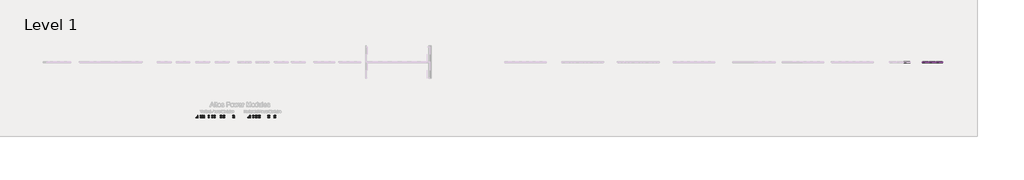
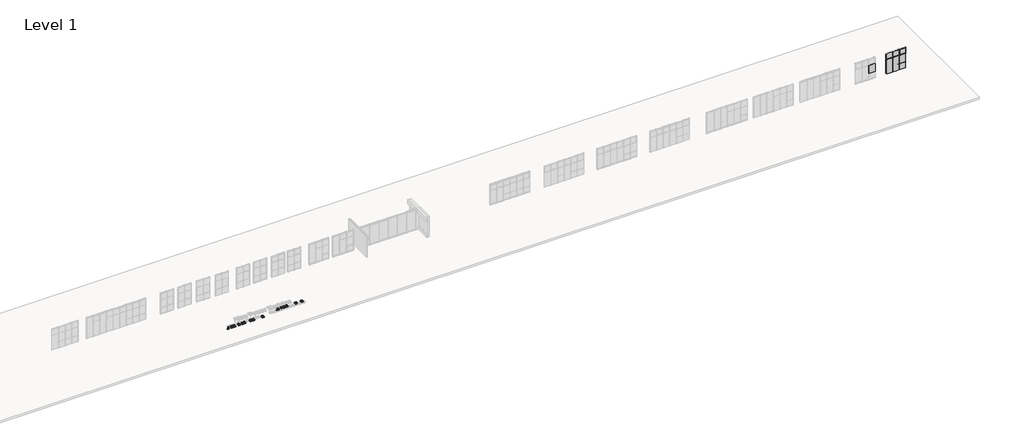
# One storey, part 17 of 22: 54 proxies.
"""IFC4 building model written with IfcOpenShell, lengths in millimetres."""

from ifc_helpers import new_model, si_unit, origin, place, context, project, spatial, transform, mapped, element, save
from components import specialty_equipment_a7725fb8, electrical_fixtures_e288b9bc, electrical_fixtures_7935cbd9, electrical_fixtures_94c24c1b, electrical_fixtures_9f06c1d8, electrical_fixtures_cf150507, electrical_fixtures_b57f04e2, electrical_fixtures_b943349e, electrical_fixtures_7ee819dc, electrical_fixtures_2c1a8ef8, electrical_fixtures_6ca6a594, electrical_fixtures_9293c94c, electrical_fixtures_81150f9e, electrical_fixtures_d6838e8a, electrical_fixtures_fca81bba, electrical_fixtures_5d6b1b63, electrical_fixtures_cbb62ec8, specialty_equipment_5beb618c, frame_teknion_horizontal_rail_5872ae1a, frame_teknion_horizontal_rail_149fd3e6, pd_horizontal_module_communications_3bd114d5, pd_horizontal_module_double_one_15_amp_standard_91662da0, pd_horizontal_module_double_one_20_amp_standard_4a8edad1, pd_horizontal_module_double_two_15_amp_standard_6849602c, pd_horizontal_module_double_two_20_amp_standard_3f62b5b6, pd_horizontal_module_single_15_amp_standard_5c934545, pd_horizontal_module_single_20_amp_standard_525e48b1, pd_vertical_module_communications_bda5cb75, pd_vertical_module_double_one_15_amp_standard_e69900ea, pd_vertical_module_double_one_20_amp_standard_6d0cff1c, pd_vertical_module_double_two_15_amp_standard_3b64569a, pd_vertical_module_double_two_20_amp_standard_31f9a75b, pd_vertical_module_quad_15_amp_standard_all_outlets_835c5be2, pd_vertical_module_quad_20_amp_standard_all_outlets_cea8ea7a, pd_vertical_module_single_15_amp_standard_b1616907, pd_vertical_module_single_20_amp_standard_ca99faa8, pd_vertical_module_triple_15_amp_standard_a40d858c, pd_vertical_module_triple_20_amp_standard_58f04986, panel_fascia_teknion_clerestory_base_fascia_level_i_988903cc, panel_fascia_teknion_clerestory_base_fascia_level_ii_c53b4d47, panel_fascia_teknion_clerestory_base_fascia_level_ii_690aed16, panel_fascia_teknion_clerestory_base_fascia_level_ii_2c55b825, panel_fascia_teknion_clerestory_base_fascia_segmented_136e7ca1, panel_fascia_teknion_clerestory_base_fascia_segmented_5bbcc382, panel_fascia_teknion_clerestory_base_fascia_segmented_676c6a3b, panel_fascia_teknion_clerestory_base_fascia_working_wall_dc28b561, panel_fascia_teknion_clerestory_base_fascia_working_wall_c515cb01, panel_fascia_teknion_clerestory_base_fascia_working_wall_e7e99f1c

model = new_model("IFC4")

# Units and contexts
model_context = context("Model", 3, world=origin())
ifc_project = project(units=[si_unit("LENGTHUNIT", "METRE", prefix="MILLI")], contexts=[model_context])

# Site, building, storey
site = spatial("IfcSite", under=ifc_project)
building = spatial("IfcBuilding", under=site)
storey = spatial("IfcBuildingStorey", under=building, Name="Level 1", Elevation=0.0)

# Proxies
placement = place(None, origin())
specialty_equipment_shape = specialty_equipment_a7725fb8(model_context)
element("IfcBuildingElementProxy", 1, Name="Panel-Clerestory-Teknion-Optos-Altos_Monolithic_Fascias : FYCG", ObjectType="Panel-Clerestory-Teknion-Optos-Altos_Monolithic_Fascias : FYCG", at=placement, inside=storey, context=model_context, shape_type="MappedRepresentation", body=[
    mapped(specialty_equipment_shape, transform((78556.512457, 1812.3522105, 2136.775), x_axis=(-1.0, 0.0, 0.0), y_axis=(0.0, -1.0, 0.0), z_axis=(0.0, 0.0, 1.0))),
])
element("IfcBuildingElementProxy", 2, Name="Panel-Clerestory-Teknion-Optos-Altos_Monolithic_Fascias : FYCG", ObjectType="Panel-Clerestory-Teknion-Optos-Altos_Monolithic_Fascias : FYCG", at=placement, inside=storey, context=model_context, shape_type="MappedRepresentation", body=[
    mapped(specialty_equipment_shape, transform((76741.7023007, 1812.3522105, 2136.775), x_axis=(-1.0, 0.0, 0.0), y_axis=(0.0, -1.0, 0.0), z_axis=(0.0, 0.0, 1.0))),
])
electrical_fixtures_shape = electrical_fixtures_e288b9bc(model_context)
element("IfcBuildingElementProxy", 3, Name="Electrical-Teknion-EPDMD_Vertical_Power_Data_Double-R2019 : PD Vertical Module - Double 15 Amp USB (A+C)", ObjectType="Electrical-Teknion-EPDMD_Vertical_Power_Data_Double-R2019 : PD Vertical Module - Double 15 Amp USB (A+C)", at=placement, inside=storey, context=model_context, shape_type="MappedRepresentation", body=[
    mapped(electrical_fixtures_shape, transform((-17578.0460124, -5496.5835012, 0.0), x_axis=(1.0, 0.0, 0.0), y_axis=(0.0, 1.0, 0.0), z_axis=(0.0, 0.0, 1.0))),
])
electrical_fixtures_2_shape = electrical_fixtures_7935cbd9(model_context)
element("IfcBuildingElementProxy", 4, Name="Electrical-Teknion-EPDMD_Vertical_Power_Data_Double-R2019 : PD Vertical Module - Double 20 Amp USB (A+C)", ObjectType="Electrical-Teknion-EPDMD_Vertical_Power_Data_Double-R2019 : PD Vertical Module - Double 20 Amp USB (A+C)", at=placement, inside=storey, context=model_context, shape_type="MappedRepresentation", body=[
    mapped(electrical_fixtures_2_shape, transform((-17578.0460124, -5272.1720809, 0.0), x_axis=(1.0, 0.0, 0.0), y_axis=(0.0, 1.0, 0.0), z_axis=(0.0, 0.0, 1.0))),
])
electrical_fixtures_3_shape = electrical_fixtures_94c24c1b(model_context)
element("IfcBuildingElementProxy", 5, Name="Electrical-Teknion-EPDMD_Vertical_Power_Data_Double-R2019 : PD Vertical Module - Double 15 Amp USB (A+C) & 15 Amp Standard", ObjectType="Electrical-Teknion-EPDMD_Vertical_Power_Data_Double-R2019 : PD Vertical Module - Double 15 Amp USB (A+C) & 15 Amp Standard", at=placement, inside=storey, context=model_context, shape_type="MappedRepresentation", body=[
    mapped(electrical_fixtures_3_shape, transform((-17134.5220958, -5496.5835012, 0.0), x_axis=(1.0, 0.0, 0.0), y_axis=(0.0, 1.0, 0.0), z_axis=(0.0, 0.0, 1.0))),
])
electrical_fixtures_4_shape = electrical_fixtures_9f06c1d8(model_context)
element("IfcBuildingElementProxy", 6, Name="Electrical-Teknion-EPDMD_Vertical_Power_Data_Double-R2019 : PD Vertical Module - Double 20 Amp USB (A+C) & 20 Amp Standard", ObjectType="Electrical-Teknion-EPDMD_Vertical_Power_Data_Double-R2019 : PD Vertical Module - Double 20 Amp USB (A+C) & 20 Amp Standard", at=placement, inside=storey, context=model_context, shape_type="MappedRepresentation", body=[
    mapped(electrical_fixtures_4_shape, transform((-17134.5220958, -5272.1720809, 0.0), x_axis=(1.0, 0.0, 0.0), y_axis=(0.0, 1.0, 0.0), z_axis=(0.0, 0.0, 1.0))),
])
electrical_fixtures_5_shape = electrical_fixtures_cf150507(model_context)
element("IfcBuildingElementProxy", 7, Name="Electrical-Teknion-EPDMT_Vertical_Power_Data_Triple-R2019 : PD Vertical Module - Triple 15 Amp USB (A+C) & 15 Amp Standard", ObjectType="Electrical-Teknion-EPDMT_Vertical_Power_Data_Triple-R2019 : PD Vertical Module - Triple 15 Amp USB (A+C) & 15 Amp Standard", at=placement, inside=storey, context=model_context, shape_type="MappedRepresentation", body=[
    mapped(electrical_fixtures_5_shape, transform((-16003.1705225, -5496.5835012, 0.0), x_axis=(1.0, 0.0, 0.0), y_axis=(0.0, 1.0, 0.0), z_axis=(0.0, 0.0, 1.0))),
])
electrical_fixtures_6_shape = electrical_fixtures_b57f04e2(model_context)
element("IfcBuildingElementProxy", 8, Name="Electrical-Teknion-EPDMT_Vertical_Power_Data_Triple-R2019 : PD Vertical Module - Triple 20 Amp USB (A+C) & 20 Amp Standard", ObjectType="Electrical-Teknion-EPDMT_Vertical_Power_Data_Triple-R2019 : PD Vertical Module - Triple 20 Amp USB (A+C) & 20 Amp Standard", at=placement, inside=storey, context=model_context, shape_type="MappedRepresentation", body=[
    mapped(electrical_fixtures_6_shape, transform((-16003.1705225, -5272.1720809, 0.0), x_axis=(1.0, 0.0, 0.0), y_axis=(0.0, 1.0, 0.0), z_axis=(0.0, 0.0, 1.0))),
])
electrical_fixtures_7_shape = electrical_fixtures_b943349e(model_context)
element("IfcBuildingElementProxy", 9, Name="Electrical-Teknion-EPDMQ_Vertical_Power_Data_Quad-R2019 : PD Vertical Module - Quad 15 Amp USB (A+C) & 15 Amp Standard", ObjectType="Electrical-Teknion-EPDMQ_Vertical_Power_Data_Quad-R2019 : PD Vertical Module - Quad 15 Amp USB (A+C) & 15 Amp Standard", at=placement, inside=storey, context=model_context, shape_type="MappedRepresentation", body=[
    mapped(electrical_fixtures_7_shape, transform((-14351.3987218, -5496.5835012, 0.0), x_axis=(1.0, 0.0, 0.0), y_axis=(0.0, 1.0, 0.0), z_axis=(0.0, 0.0, 1.0))),
])
electrical_fixtures_8_shape = electrical_fixtures_7ee819dc(model_context)
element("IfcBuildingElementProxy", 10, Name="Electrical-Teknion-EPDMQ_Vertical_Power_Data_Quad-R2019 : PD Vertical Module - Quad 20 Amp USB (A+C) & 20 Amp Standard", ObjectType="Electrical-Teknion-EPDMQ_Vertical_Power_Data_Quad-R2019 : PD Vertical Module - Quad 20 Amp USB (A+C) & 20 Amp Standard", at=placement, inside=storey, context=model_context, shape_type="MappedRepresentation", body=[
    mapped(electrical_fixtures_8_shape, transform((-14351.3987218, -5272.1720809, 0.0), x_axis=(1.0, 0.0, 0.0), y_axis=(0.0, 1.0, 0.0), z_axis=(0.0, 0.0, 1.0))),
])
electrical_fixtures_9_shape = electrical_fixtures_2c1a8ef8(model_context)
element("IfcBuildingElementProxy", 11, Name="Electrical-Teknion-EPDHS_Horizontal_Power_Data_Single-R2019 : PD Horizontal Module - Single 15 Amp USB (A+C)", ObjectType="Electrical-Teknion-EPDHS_Horizontal_Power_Data_Single-R2019 : PD Horizontal Module - Single 15 Amp USB (A+C)", at=placement, inside=storey, context=model_context, shape_type="MappedRepresentation", body=[
    mapped(electrical_fixtures_9_shape, transform((-11709.2014406, -5496.5835012, 0.0), x_axis=(1.0, 0.0, 0.0), y_axis=(0.0, 1.0, 0.0), z_axis=(0.0, 0.0, 1.0))),
])
electrical_fixtures_10_shape = electrical_fixtures_6ca6a594(model_context)
element("IfcBuildingElementProxy", 12, Name="Electrical-Teknion-EPDHS_Horizontal_Power_Data_Single-R2019 : PD Horizontal Module - Single 20 Amp USB (A+C)", ObjectType="Electrical-Teknion-EPDHS_Horizontal_Power_Data_Single-R2019 : PD Horizontal Module - Single 20 Amp USB (A+C)", at=placement, inside=storey, context=model_context, shape_type="MappedRepresentation", body=[
    mapped(electrical_fixtures_10_shape, transform((-11709.2014406, -5272.1720809, 0.0), x_axis=(1.0, 0.0, 0.0), y_axis=(0.0, 1.0, 0.0), z_axis=(0.0, 0.0, 1.0))),
])
electrical_fixtures_11_shape = electrical_fixtures_9293c94c(model_context)
element("IfcBuildingElementProxy", 13, Name="Electrical-Teknion-EPDHD_Horizontal_Power_Data_Double-R2019 : PD Horizontal Module - Double 15 Amp USB (A+C)", ObjectType="Electrical-Teknion-EPDHD_Horizontal_Power_Data_Double-R2019 : PD Horizontal Module - Double 15 Amp USB (A+C)", at=placement, inside=storey, context=model_context, shape_type="MappedRepresentation", body=[
    mapped(electrical_fixtures_11_shape, transform((-9748.4131037, -5496.5835012, 0.0), x_axis=(1.0, 0.0, 0.0), y_axis=(0.0, 1.0, 0.0), z_axis=(0.0, 0.0, 1.0))),
])
electrical_fixtures_12_shape = electrical_fixtures_81150f9e(model_context)
element("IfcBuildingElementProxy", 14, Name="Electrical-Teknion-EPDHD_Horizontal_Power_Data_Double-R2019 : PD Horizontal Module - Double 20 Amp USB (A+C)", ObjectType="Electrical-Teknion-EPDHD_Horizontal_Power_Data_Double-R2019 : PD Horizontal Module - Double 20 Amp USB (A+C)", at=placement, inside=storey, context=model_context, shape_type="MappedRepresentation", body=[
    mapped(electrical_fixtures_12_shape, transform((-9748.4131037, -5272.1720809, 0.0), x_axis=(1.0, 0.0, 0.0), y_axis=(0.0, 1.0, 0.0), z_axis=(0.0, 0.0, 1.0))),
])
electrical_fixtures_13_shape = electrical_fixtures_d6838e8a(model_context)
element("IfcBuildingElementProxy", 15, Name="Electrical-Teknion-EPDHD_Horizontal_Power_Data_Double-R2019 : PD Horizontal Module - Double 15 Amp USB (A+C) & 15 Amp Standard", ObjectType="Electrical-Teknion-EPDHD_Horizontal_Power_Data_Double-R2019 : PD Horizontal Module - Double 15 Amp USB (A+C) & 15 Amp Standard", at=placement, inside=storey, context=model_context, shape_type="MappedRepresentation", body=[
    mapped(electrical_fixtures_13_shape, transform((-8936.6472871, -5496.5835012, 0.0), x_axis=(1.0, 0.0, 0.0), y_axis=(0.0, 1.0, 0.0), z_axis=(0.0, 0.0, 1.0))),
])
electrical_fixtures_14_shape = electrical_fixtures_fca81bba(model_context)
element("IfcBuildingElementProxy", 16, Name="Electrical-Teknion-EPDHD_Horizontal_Power_Data_Double-R2019 : PD Horizontal Module - Double 20 Amp USB (A+C) & 20 Amp Standard", ObjectType="Electrical-Teknion-EPDHD_Horizontal_Power_Data_Double-R2019 : PD Horizontal Module - Double 20 Amp USB (A+C) & 20 Amp Standard", at=placement, inside=storey, context=model_context, shape_type="MappedRepresentation", body=[
    mapped(electrical_fixtures_14_shape, transform((-8936.6472871, -5272.1720809, 0.0), x_axis=(1.0, 0.0, 0.0), y_axis=(0.0, 1.0, 0.0), z_axis=(0.0, 0.0, 1.0))),
])
electrical_fixtures_15_shape = electrical_fixtures_5d6b1b63(model_context)
element("IfcBuildingElementProxy", 17, Name="Electrical-Teknion-EPDMS_Vertical_Power_Data_Single-R2019 : PD Vertical Module - Single 15 Amp USB (A+C)", ObjectType="Electrical-Teknion-EPDMS_Vertical_Power_Data_Single-R2019 : PD Vertical Module - Single 15 Amp USB (A+C)", at=placement, inside=storey, context=model_context, shape_type="MappedRepresentation", body=[
    mapped(electrical_fixtures_15_shape, transform((-18611.1746708, -5496.5835012, 0.0), x_axis=(1.0, 0.0, 0.0), y_axis=(0.0, 1.0, 0.0), z_axis=(0.0, 0.0, 1.0))),
])
electrical_fixtures_16_shape = electrical_fixtures_cbb62ec8(model_context)
element("IfcBuildingElementProxy", 18, Name="Electrical-Teknion-EPDMS_Vertical_Power_Data_Single-R2019 : PD Vertical Module - Single 20 Amp USB (A+C)", ObjectType="Electrical-Teknion-EPDMS_Vertical_Power_Data_Single-R2019 : PD Vertical Module - Single 20 Amp USB (A+C)", at=placement, inside=storey, context=model_context, shape_type="MappedRepresentation", body=[
    mapped(electrical_fixtures_16_shape, transform((-18611.1746708, -5272.1720809, 0.0), x_axis=(1.0, 0.0, 0.0), y_axis=(0.0, 1.0, 0.0), z_axis=(0.0, 0.0, 1.0))),
])
specialty_equipment_2_shape = specialty_equipment_5beb618c(model_context)
element("IfcBuildingElementProxy", 19, Name="Panel-Clerestory-Teknion-Optos-Altos_Monolithic_Fascias : FYCG", ObjectType="Panel-Clerestory-Teknion-Optos-Altos_Monolithic_Fascias : FYCG", at=placement, inside=storey, context=model_context, shape_type="MappedRepresentation", body=[
    mapped(specialty_equipment_2_shape, transform((77649.1073788, 1812.3522105, 2136.775), x_axis=(-1.0, 0.0, 0.0), y_axis=(0.0, -1.0, 0.0), z_axis=(0.0, 0.0, 1.0))),
])
frame_teknion_horizontal_rail_shape = frame_teknion_horizontal_rail_5872ae1a(model_context)
element("IfcBuildingElementProxy", 20, Name="Frame-Teknion-Horizontal_Rail : FPKK", ObjectType="Frame-Teknion-Horizontal_Rail : FPKK", at=placement, inside=storey, context=model_context, shape_type="MappedRepresentation", body=[
    mapped(frame_teknion_horizontal_rail_shape, transform((78556.512457, 1812.3522105, 917.575), x_axis=(-1.0, 0.0, 0.0), y_axis=(0.0, -1.0, 0.0), z_axis=(0.0, 0.0, 1.0))),
])
element("IfcBuildingElementProxy", 21, Name="Frame-Teknion-Horizontal_Rail : FPKK", ObjectType="Frame-Teknion-Horizontal_Rail : FPKK", at=placement, inside=storey, context=model_context, shape_type="MappedRepresentation", body=[
    mapped(frame_teknion_horizontal_rail_shape, transform((78556.512457, 1812.3522105, 2136.775), x_axis=(-1.0, 0.0, 0.0), y_axis=(0.0, -1.0, 0.0), z_axis=(0.0, 0.0, 1.0))),
])
element("IfcBuildingElementProxy", 22, Name="Frame-Teknion-Horizontal_Rail : FPKK", ObjectType="Frame-Teknion-Horizontal_Rail : FPKK", at=placement, inside=storey, context=model_context, shape_type="MappedRepresentation", body=[
    mapped(frame_teknion_horizontal_rail_shape, transform((76741.7023007, 1812.3522105, 2136.775), x_axis=(-1.0, 0.0, 0.0), y_axis=(0.0, -1.0, 0.0), z_axis=(0.0, 0.0, 1.0))),
])
frame_teknion_horizontal_rail_2_shape = frame_teknion_horizontal_rail_149fd3e6(model_context)
element("IfcBuildingElementProxy", 23, Name="Frame-Teknion-Horizontal_Rail : FPKK", ObjectType="Frame-Teknion-Horizontal_Rail : FPKK", at=placement, inside=storey, context=model_context, shape_type="MappedRepresentation", body=[
    mapped(frame_teknion_horizontal_rail_2_shape, transform((77649.1073788, 1812.3522105, 917.575), x_axis=(-1.0, 0.0, 0.0), y_axis=(0.0, -1.0, 0.0), z_axis=(0.0, 0.0, 1.0))),
])
element("IfcBuildingElementProxy", 24, Name="Frame-Teknion-Horizontal_Rail : FPKK", ObjectType="Frame-Teknion-Horizontal_Rail : FPKK", at=placement, inside=storey, context=model_context, shape_type="MappedRepresentation", body=[
    mapped(frame_teknion_horizontal_rail_2_shape, transform((77649.1073788, 1812.3522105, 2136.775), x_axis=(-1.0, 0.0, 0.0), y_axis=(0.0, -1.0, 0.0), z_axis=(0.0, 0.0, 1.0))),
])
pd_horizontal_module_communications_shape = pd_horizontal_module_communications_3bd114d5(model_context)
element("IfcBuildingElementProxy", 25, Name="Electrical-Teknion-EPDHC_Horizontal_Power_Data_Module_Communication-R2019 : PD Horizontal Module - Communications", ObjectType="Electrical-Teknion-EPDHC_Horizontal_Power_Data_Module_Communication-R2019 : PD Horizontal Module - Communications", at=placement, inside=storey, context=model_context, shape_type="MappedRepresentation", body=[
    mapped(pd_horizontal_module_communications_shape, transform((-12409.8908434, -5496.5835012, 0.0), x_axis=(1.0, 0.0, 0.0), y_axis=(0.0, 1.0, 0.0), z_axis=(0.0, 0.0, 1.0))),
])
pd_horizontal_module_double_one_15_amp_standard_shape = pd_horizontal_module_double_one_15_amp_standard_91662da0(model_context)
element("IfcBuildingElementProxy", 26, Name="Electrical-Teknion-EPDHD_Horizontal_Power_Data_Double-R2019 : PD Horizontal Module - Double One 15 Amp Standard", ObjectType="Electrical-Teknion-EPDHD_Horizontal_Power_Data_Double-R2019 : PD Horizontal Module - Double One 15 Amp Standard", at=placement, inside=storey, context=model_context, shape_type="MappedRepresentation", body=[
    mapped(pd_horizontal_module_double_one_15_amp_standard_shape, transform((-11390.4705129, -5496.5835012, 0.0), x_axis=(1.0, 0.0, 0.0), y_axis=(0.0, 1.0, 0.0), z_axis=(0.0, 0.0, 1.0))),
])
pd_horizontal_module_double_one_20_amp_standard_shape = pd_horizontal_module_double_one_20_amp_standard_4a8edad1(model_context)
element("IfcBuildingElementProxy", 27, Name="Electrical-Teknion-EPDHD_Horizontal_Power_Data_Double-R2019 : PD Horizontal Module - Double One 20 Amp Standard", ObjectType="Electrical-Teknion-EPDHD_Horizontal_Power_Data_Double-R2019 : PD Horizontal Module - Double One 20 Amp Standard", at=placement, inside=storey, context=model_context, shape_type="MappedRepresentation", body=[
    mapped(pd_horizontal_module_double_one_20_amp_standard_shape, transform((-11390.4705129, -5272.1720809, 0.0), x_axis=(1.0, 0.0, 0.0), y_axis=(0.0, 1.0, 0.0), z_axis=(0.0, 0.0, 1.0))),
])
pd_horizontal_module_double_two_15_amp_standard_shape = pd_horizontal_module_double_two_15_amp_standard_6849602c(model_context)
element("IfcBuildingElementProxy", 28, Name="Electrical-Teknion-EPDHD_Horizontal_Power_Data_Double-R2019 : PD Horizontal Module - Double Two 15 Amp Standard", ObjectType="Electrical-Teknion-EPDHD_Horizontal_Power_Data_Double-R2019 : PD Horizontal Module - Double Two 15 Amp Standard", at=placement, inside=storey, context=model_context, shape_type="MappedRepresentation", body=[
    mapped(pd_horizontal_module_double_two_15_amp_standard_shape, transform((-10998.0608961, -5496.5835012, 0.0), x_axis=(1.0, 0.0, 0.0), y_axis=(0.0, 1.0, 0.0), z_axis=(0.0, 0.0, 1.0))),
])
pd_horizontal_module_double_two_20_amp_standard_shape = pd_horizontal_module_double_two_20_amp_standard_3f62b5b6(model_context)
element("IfcBuildingElementProxy", 29, Name="Electrical-Teknion-EPDHD_Horizontal_Power_Data_Double-R2019 : PD Horizontal Module - Double Two 20 Amp Standard", ObjectType="Electrical-Teknion-EPDHD_Horizontal_Power_Data_Double-R2019 : PD Horizontal Module - Double Two 20 Amp Standard", at=placement, inside=storey, context=model_context, shape_type="MappedRepresentation", body=[
    mapped(pd_horizontal_module_double_two_20_amp_standard_shape, transform((-11013.7856139, -5272.1720809, 0.0), x_axis=(1.0, 0.0, 0.0), y_axis=(0.0, 1.0, 0.0), z_axis=(0.0, 0.0, 1.0))),
])
pd_horizontal_module_single_15_amp_standard_shape = pd_horizontal_module_single_15_amp_standard_5c934545(model_context)
element("IfcBuildingElementProxy", 30, Name="Electrical-Teknion-EPDHS_Horizontal_Power_Data_Single-R2019 : PD Horizontal Module - Single 15 Amp Standard", ObjectType="Electrical-Teknion-EPDHS_Horizontal_Power_Data_Single-R2019 : PD Horizontal Module - Single 15 Amp Standard", at=placement, inside=storey, context=model_context, shape_type="MappedRepresentation", body=[
    mapped(pd_horizontal_module_single_15_amp_standard_shape, transform((-12160.1129942, -5496.5835012, 0.0), x_axis=(1.0, 0.0, 0.0), y_axis=(0.0, 1.0, 0.0), z_axis=(0.0, 0.0, 1.0))),
])
pd_horizontal_module_single_20_amp_standard_shape = pd_horizontal_module_single_20_amp_standard_525e48b1(model_context)
element("IfcBuildingElementProxy", 31, Name="Electrical-Teknion-EPDHS_Horizontal_Power_Data_Single-R2019 : PD Horizontal Module - Single 20 Amp Standard", ObjectType="Electrical-Teknion-EPDHS_Horizontal_Power_Data_Single-R2019 : PD Horizontal Module - Single 20 Amp Standard", at=placement, inside=storey, context=model_context, shape_type="MappedRepresentation", body=[
    mapped(pd_horizontal_module_single_20_amp_standard_shape, transform((-12160.1129942, -5272.1720809, 0.0), x_axis=(1.0, 0.0, 0.0), y_axis=(0.0, 1.0, 0.0), z_axis=(0.0, 0.0, 1.0))),
])
pd_vertical_module_communications_shape = pd_vertical_module_communications_bda5cb75(model_context)
element("IfcBuildingElementProxy", 32, Name="Electrical-Teknion-EPDMC_Vertical_Power_Data_Module_Communication-R2019 : PD Vertical Module - Communications", ObjectType="Electrical-Teknion-EPDMC_Vertical_Power_Data_Module_Communication-R2019 : PD Vertical Module - Communications", at=placement, inside=storey, context=model_context, shape_type="MappedRepresentation", body=[
    mapped(pd_vertical_module_communications_shape, transform((-19187.6467155, -5496.5835012, 0.0), x_axis=(1.0, 0.0, 0.0), y_axis=(0.0, 1.0, 0.0), z_axis=(0.0, 0.0, 1.0))),
])
pd_vertical_module_double_one_15_amp_standard_shape = pd_vertical_module_double_one_15_amp_standard_e69900ea(model_context)
element("IfcBuildingElementProxy", 33, Name="Electrical-Teknion-EPDMD_Vertical_Power_Data_Double-R2019 : PD Vertical Module - Double One 15 Amp Standard", ObjectType="Electrical-Teknion-EPDMD_Vertical_Power_Data_Double-R2019 : PD Vertical Module - Double One 15 Amp Standard", at=placement, inside=storey, context=model_context, shape_type="MappedRepresentation", body=[
    mapped(pd_vertical_module_double_one_15_amp_standard_shape, transform((-18418.6109898, -5496.5835012, 0.0), x_axis=(1.0, 0.0, 0.0), y_axis=(0.0, 1.0, 0.0), z_axis=(0.0, 0.0, 1.0))),
])
pd_vertical_module_double_one_20_amp_standard_shape = pd_vertical_module_double_one_20_amp_standard_6d0cff1c(model_context)
element("IfcBuildingElementProxy", 34, Name="Electrical-Teknion-EPDMD_Vertical_Power_Data_Double-R2019 : PD Vertical Module - Double One 20 Amp Standard", ObjectType="Electrical-Teknion-EPDMD_Vertical_Power_Data_Double-R2019 : PD Vertical Module - Double One 20 Amp Standard", at=placement, inside=storey, context=model_context, shape_type="MappedRepresentation", body=[
    mapped(pd_vertical_module_double_one_20_amp_standard_shape, transform((-18418.6109898, -5272.1720809, 0.0), x_axis=(1.0, 0.0, 0.0), y_axis=(0.0, 1.0, 0.0), z_axis=(0.0, 0.0, 1.0))),
])
pd_vertical_module_double_two_15_amp_standard_shape = pd_vertical_module_double_two_15_amp_standard_3b64569a(model_context)
element("IfcBuildingElementProxy", 35, Name="Electrical-Teknion-EPDMD_Vertical_Power_Data_Double-R2019 : PD Vertical Module - Double Two 15 Amp Standard", ObjectType="Electrical-Teknion-EPDMD_Vertical_Power_Data_Double-R2019 : PD Vertical Module - Double Two 15 Amp Standard", at=placement, inside=storey, context=model_context, shape_type="MappedRepresentation", body=[
    mapped(pd_vertical_module_double_two_15_amp_standard_shape, transform((-18205.564567, -5496.5835012, 0.0), x_axis=(1.0, 0.0, 0.0), y_axis=(0.0, 1.0, 0.0), z_axis=(0.0, 0.0, 1.0))),
])
pd_vertical_module_double_two_20_amp_standard_shape = pd_vertical_module_double_two_20_amp_standard_31f9a75b(model_context)
element("IfcBuildingElementProxy", 36, Name="Electrical-Teknion-EPDMD_Vertical_Power_Data_Double-R2019 : PD Vertical Module - Double Two 20 Amp Standard", ObjectType="Electrical-Teknion-EPDMD_Vertical_Power_Data_Double-R2019 : PD Vertical Module - Double Two 20 Amp Standard", at=placement, inside=storey, context=model_context, shape_type="MappedRepresentation", body=[
    mapped(pd_vertical_module_double_two_20_amp_standard_shape, transform((-18205.564567, -5272.1720809, 0.0), x_axis=(1.0, 0.0, 0.0), y_axis=(0.0, 1.0, 0.0), z_axis=(0.0, 0.0, 1.0))),
])
pd_vertical_module_quad_15_amp_standard_all_outlets_shape = pd_vertical_module_quad_15_amp_standard_all_outlets_835c5be2(model_context)
element("IfcBuildingElementProxy", 37, Name="Electrical-Teknion-EPDMQ_Vertical_Power_Data_Quad-R2019 : PD Vertical Module - Quad 15 Amp Standard - All Outlets", ObjectType="Electrical-Teknion-EPDMQ_Vertical_Power_Data_Quad-R2019 : PD Vertical Module - Quad 15 Amp Standard - All Outlets", at=placement, inside=storey, context=model_context, shape_type="MappedRepresentation", body=[
    mapped(pd_vertical_module_quad_15_amp_standard_all_outlets_shape, transform((-15638.7801514, -5496.5835012, 0.0), x_axis=(1.0, 0.0, 0.0), y_axis=(0.0, 1.0, 0.0), z_axis=(0.0, 0.0, 1.0))),
])
pd_vertical_module_quad_20_amp_standard_all_outlets_shape = pd_vertical_module_quad_20_amp_standard_all_outlets_cea8ea7a(model_context)
element("IfcBuildingElementProxy", 38, Name="Electrical-Teknion-EPDMQ_Vertical_Power_Data_Quad-R2019 : PD Vertical Module - Quad 20 Amp Standard - All Outlets", ObjectType="Electrical-Teknion-EPDMQ_Vertical_Power_Data_Quad-R2019 : PD Vertical Module - Quad 20 Amp Standard - All Outlets", at=placement, inside=storey, context=model_context, shape_type="MappedRepresentation", body=[
    mapped(pd_vertical_module_quad_20_amp_standard_all_outlets_shape, transform((-15638.7801514, -5272.1720809, 0.0), x_axis=(1.0, 0.0, 0.0), y_axis=(0.0, 1.0, 0.0), z_axis=(0.0, 0.0, 1.0))),
])
pd_vertical_module_single_15_amp_standard_shape = pd_vertical_module_single_15_amp_standard_b1616907(model_context)
element("IfcBuildingElementProxy", 39, Name="Electrical-Teknion-EPDMS_Vertical_Power_Data_Single-R2019 : PD Vertical Module - Single 15 Amp Standard", ObjectType="Electrical-Teknion-EPDMS_Vertical_Power_Data_Single-R2019 : PD Vertical Module - Single 15 Amp Standard", at=placement, inside=storey, context=model_context, shape_type="MappedRepresentation", body=[
    mapped(pd_vertical_module_single_15_amp_standard_shape, transform((-19000.731447, -5496.5835012, 0.0), x_axis=(1.0, 0.0, 0.0), y_axis=(0.0, 1.0, 0.0), z_axis=(0.0, 0.0, 1.0))),
])
pd_vertical_module_single_20_amp_standard_shape = pd_vertical_module_single_20_amp_standard_ca99faa8(model_context)
element("IfcBuildingElementProxy", 40, Name="Electrical-Teknion-EPDMS_Vertical_Power_Data_Single-R2019 : PD Vertical Module - Single 20 Amp Standard", ObjectType="Electrical-Teknion-EPDMS_Vertical_Power_Data_Single-R2019 : PD Vertical Module - Single 20 Amp Standard", at=placement, inside=storey, context=model_context, shape_type="MappedRepresentation", body=[
    mapped(pd_vertical_module_single_20_amp_standard_shape, transform((-19000.731447, -5272.1720809, 0.0), x_axis=(1.0, 0.0, 0.0), y_axis=(0.0, 1.0, 0.0), z_axis=(0.0, 0.0, 1.0))),
])
pd_vertical_module_triple_15_amp_standard_shape = pd_vertical_module_triple_15_amp_standard_a40d858c(model_context)
element("IfcBuildingElementProxy", 41, Name="Electrical-Teknion-EPDMT_Vertical_Power_Data_Triple-R2019 : PD Vertical Module - Triple 15 Amp Standard", ObjectType="Electrical-Teknion-EPDMT_Vertical_Power_Data_Triple-R2019 : PD Vertical Module - Triple 15 Amp Standard", at=placement, inside=storey, context=model_context, shape_type="MappedRepresentation", body=[
    mapped(pd_vertical_module_triple_15_amp_standard_shape, transform((-16856.8079799, -5496.5835012, 0.0), x_axis=(1.0, 0.0, 0.0), y_axis=(0.0, 1.0, 0.0), z_axis=(0.0, 0.0, 1.0))),
])
pd_vertical_module_triple_20_amp_standard_shape = pd_vertical_module_triple_20_amp_standard_58f04986(model_context)
element("IfcBuildingElementProxy", 42, Name="Electrical-Teknion-EPDMT_Vertical_Power_Data_Triple-R2019 : PD Vertical Module - Triple 20 Amp Standard", ObjectType="Electrical-Teknion-EPDMT_Vertical_Power_Data_Triple-R2019 : PD Vertical Module - Triple 20 Amp Standard", at=placement, inside=storey, context=model_context, shape_type="MappedRepresentation", body=[
    mapped(pd_vertical_module_triple_20_amp_standard_shape, transform((-16856.8079799, -5272.1720809, 0.0), x_axis=(1.0, 0.0, 0.0), y_axis=(0.0, 1.0, 0.0), z_axis=(0.0, 0.0, 1.0))),
])
panel_fascia_teknion_clerestory_base_fascia_level_i_shape = panel_fascia_teknion_clerestory_base_fascia_level_i_988903cc(model_context)
element("IfcBuildingElementProxy", 43, Name="Panel-Fascia-Teknion-Clerestory_Base_Fascia : Level I", ObjectType="Panel-Fascia-Teknion-Clerestory_Base_Fascia : Level I", at=placement, inside=storey, context=model_context, shape_type="MappedRepresentation", body=[
    mapped(panel_fascia_teknion_clerestory_base_fascia_level_i_shape, transform((74289.312457, 1852.8652105, 100.457), x_axis=(1.0, 0.0, 0.0), y_axis=(0.0, 1.0, 0.0), z_axis=(0.0, 0.0, 1.0))),
])
panel_fascia_teknion_clerestory_base_fascia_level_ii_shape = panel_fascia_teknion_clerestory_base_fascia_level_ii_c53b4d47(model_context)
element("IfcBuildingElementProxy", 44, Name="Panel-Fascia-Teknion-Clerestory_Base_Fascia : Level II", ObjectType="Panel-Fascia-Teknion-Clerestory_Base_Fascia : Level II", at=placement, inside=storey, context=model_context, shape_type="MappedRepresentation", body=[
    mapped(panel_fascia_teknion_clerestory_base_fascia_level_ii_shape, transform((74289.312457, 1771.8392105, 917.575), x_axis=(1.0, 0.0, 0.0), y_axis=(0.0, 1.0, 0.0), z_axis=(0.0, 0.0, 1.0))),
])
element("IfcBuildingElementProxy", 45, Name="Panel-Fascia-Teknion-Clerestory_Base_Fascia : Level II", ObjectType="Panel-Fascia-Teknion-Clerestory_Base_Fascia : Level II", at=placement, inside=storey, context=model_context, shape_type="MappedRepresentation", body=[
    mapped(panel_fascia_teknion_clerestory_base_fascia_level_ii_shape, transform((78556.512457, 1852.8652105, 917.575), x_axis=(-1.0, 0.0, 0.0), y_axis=(0.0, -1.0, 0.0), z_axis=(0.0, 0.0, 1.0))),
])
panel_fascia_teknion_clerestory_base_fascia_level_ii_2_shape = panel_fascia_teknion_clerestory_base_fascia_level_ii_690aed16(model_context)
element("IfcBuildingElementProxy", 46, Name="Panel-Fascia-Teknion-Clerestory_Base_Fascia : Level II", ObjectType="Panel-Fascia-Teknion-Clerestory_Base_Fascia : Level II", at=placement, inside=storey, context=model_context, shape_type="MappedRepresentation", body=[
    mapped(panel_fascia_teknion_clerestory_base_fascia_level_ii_2_shape, transform((74289.312457, 1852.8652105, 917.575), x_axis=(1.0, 0.0, 0.0), y_axis=(0.0, 1.0, 0.0), z_axis=(0.0, 0.0, 1.0))),
])
element("IfcBuildingElementProxy", 47, Name="Panel-Fascia-Teknion-Clerestory_Base_Fascia : Level II", ObjectType="Panel-Fascia-Teknion-Clerestory_Base_Fascia : Level II", at=placement, inside=storey, context=model_context, shape_type="MappedRepresentation", body=[
    mapped(panel_fascia_teknion_clerestory_base_fascia_level_ii_2_shape, transform((78556.512457, 1771.8392105, 917.575), x_axis=(-1.0, 0.0, 0.0), y_axis=(0.0, -1.0, 0.0), z_axis=(0.0, 0.0, 1.0))),
])
panel_fascia_teknion_clerestory_base_fascia_level_ii_3_shape = panel_fascia_teknion_clerestory_base_fascia_level_ii_2c55b825(model_context)
element("IfcBuildingElementProxy", 48, Name="Panel-Fascia-Teknion-Clerestory_Base_Fascia : Level II", ObjectType="Panel-Fascia-Teknion-Clerestory_Base_Fascia : Level II", at=placement, inside=storey, context=model_context, shape_type="MappedRepresentation", body=[
    mapped(panel_fascia_teknion_clerestory_base_fascia_level_ii_3_shape, transform((77649.1073788, 1852.8652105, 917.575), x_axis=(-1.0, 0.0, 0.0), y_axis=(0.0, -1.0, 0.0), z_axis=(0.0, 0.0, 1.0))),
])
panel_fascia_teknion_clerestory_base_fascia_segmented_shape = panel_fascia_teknion_clerestory_base_fascia_segmented_136e7ca1(model_context)
element("IfcBuildingElementProxy", 49, Name="Panel-Fascia-Teknion-Clerestory_Base_Fascia : Segmented Monolithic Level I", ObjectType="Panel-Fascia-Teknion-Clerestory_Base_Fascia : Segmented Monolithic Level I", at=placement, inside=storey, context=model_context, shape_type="MappedRepresentation", body=[
    mapped(panel_fascia_teknion_clerestory_base_fascia_segmented_shape, transform((76741.7023007, 1852.8652105, 12.7), x_axis=(-1.0, 0.0, 0.0), y_axis=(0.0, -1.0, 0.0), z_axis=(0.0, 0.0, 1.0))),
])
panel_fascia_teknion_clerestory_base_fascia_segmented_2_shape = panel_fascia_teknion_clerestory_base_fascia_segmented_5bbcc382(model_context)
element("IfcBuildingElementProxy", 50, Name="Panel-Fascia-Teknion-Clerestory_Base_Fascia : Segmented Monolithic Level I", ObjectType="Panel-Fascia-Teknion-Clerestory_Base_Fascia : Segmented Monolithic Level I", at=placement, inside=storey, context=model_context, shape_type="MappedRepresentation", body=[
    mapped(panel_fascia_teknion_clerestory_base_fascia_segmented_2_shape, transform((76741.7023007, 1771.8392105, 12.7), x_axis=(-1.0, 0.0, 0.0), y_axis=(0.0, -1.0, 0.0), z_axis=(0.0, 0.0, 1.0))),
])
panel_fascia_teknion_clerestory_base_fascia_segmented_3_shape = panel_fascia_teknion_clerestory_base_fascia_segmented_676c6a3b(model_context)
element("IfcBuildingElementProxy", 51, Name="Panel-Fascia-Teknion-Clerestory_Base_Fascia : Segmented Monolithic Level I", ObjectType="Panel-Fascia-Teknion-Clerestory_Base_Fascia : Segmented Monolithic Level I", at=placement, inside=storey, context=model_context, shape_type="MappedRepresentation", body=[
    mapped(panel_fascia_teknion_clerestory_base_fascia_segmented_3_shape, transform((77649.1073788, 1771.8392105, 12.7), x_axis=(-1.0, 0.0, 0.0), y_axis=(0.0, -1.0, 0.0), z_axis=(0.0, 0.0, 1.0))),
])
panel_fascia_teknion_clerestory_base_fascia_working_wall_shape = panel_fascia_teknion_clerestory_base_fascia_working_wall_dc28b561(model_context)
element("IfcBuildingElementProxy", 52, Name="Panel-Fascia-Teknion-Clerestory_Base_Fascia : Working Wall Monolithic Level I", ObjectType="Panel-Fascia-Teknion-Clerestory_Base_Fascia : Working Wall Monolithic Level I", at=placement, inside=storey, context=model_context, shape_type="MappedRepresentation", body=[
    mapped(panel_fascia_teknion_clerestory_base_fascia_working_wall_shape, transform((78556.512457, 1771.8392105, 12.7), x_axis=(-1.0, 0.0, 0.0), y_axis=(0.0, -1.0, 0.0), z_axis=(0.0, 0.0, 1.0))),
])
panel_fascia_teknion_clerestory_base_fascia_working_wall_2_shape = panel_fascia_teknion_clerestory_base_fascia_working_wall_c515cb01(model_context)
element("IfcBuildingElementProxy", 53, Name="Panel-Fascia-Teknion-Clerestory_Base_Fascia : Working Wall Monolithic Level I", ObjectType="Panel-Fascia-Teknion-Clerestory_Base_Fascia : Working Wall Monolithic Level I", at=placement, inside=storey, context=model_context, shape_type="MappedRepresentation", body=[
    mapped(panel_fascia_teknion_clerestory_base_fascia_working_wall_2_shape, transform((78556.512457, 1852.8652105, 12.7), x_axis=(-1.0, 0.0, 0.0), y_axis=(0.0, -1.0, 0.0), z_axis=(0.0, 0.0, 1.0))),
])
panel_fascia_teknion_clerestory_base_fascia_working_wall_3_shape = panel_fascia_teknion_clerestory_base_fascia_working_wall_e7e99f1c(model_context)
element("IfcBuildingElementProxy", 54, Name="Panel-Fascia-Teknion-Clerestory_Base_Fascia : Working Wall Monolithic Level I", ObjectType="Panel-Fascia-Teknion-Clerestory_Base_Fascia : Working Wall Monolithic Level I", at=placement, inside=storey, context=model_context, shape_type="MappedRepresentation", body=[
    mapped(panel_fascia_teknion_clerestory_base_fascia_working_wall_3_shape, transform((77649.1073788, 1852.8652105, 12.7), x_axis=(-1.0, 0.0, 0.0), y_axis=(0.0, -1.0, 0.0), z_axis=(0.0, 0.0, 1.0))),
])

save(model, "model.ifc")
